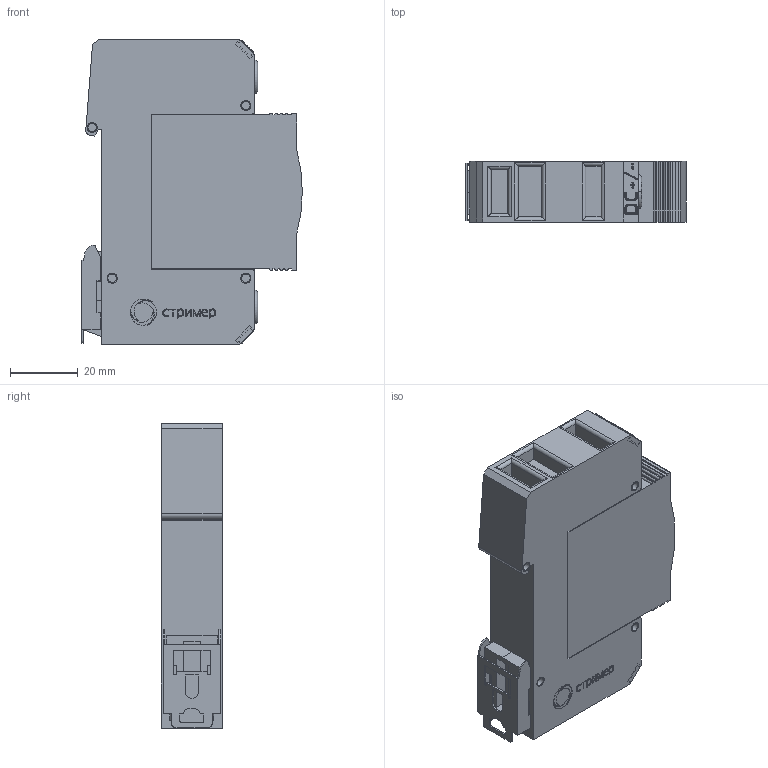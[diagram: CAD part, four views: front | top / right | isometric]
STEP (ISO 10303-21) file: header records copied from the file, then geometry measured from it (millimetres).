
FILE_DESCRIPTION(('TFLEX Exchange Step'),'2;1');
FILE_NAME('X2\041004400442\X0\.111_007.stp', '2022-07-15T15:58:28+03:00',('Pavel Oborin'),('Unknown organisation'),'TFLEX Exchange 2019.2','T-FLEX CAD','Unknown authorisation');
FILE_SCHEMA( ('AUTOMOTIVE_DESIGN { 1 0 10303 214 1 1 1 1 }') );
Length unit declared in the file: millimetre
Products named in the file (7): 0; Буква PE; Буква DC+-; Планка; ВНЕШНИЙ МОДУЛЬ 18; Корпус 18; Арт.111_007
Assembly tree (6 placements, depth 2):
  Арт.111_007
    0
    Буква PE
    Буква DC+-
    Планка
    ВНЕШНИЙ МОДУЛЬ 18
    Корпус 18
Bounding box: 65.19 x 18.1 x 90.08 mm (x, y, z)
Volume: 84096.6 mm3; surface area: 23961.4 mm2
Topology: 36 solids, 36 shells, 632 faces, 1548 edges, 995 vertices
Faces by surface type: plane 366, cylinder 153, bspline 109, torus 4
Entity records: 29505 total; most frequent: CARTESIAN_POINT 14748, ORIENTED_EDGE 3096, DIRECTION 2754, EDGE_CURVE 1548, VECTOR 1070, LINE 1070, VERTEX_POINT 995, AXIS2_PLACEMENT_3D 842
